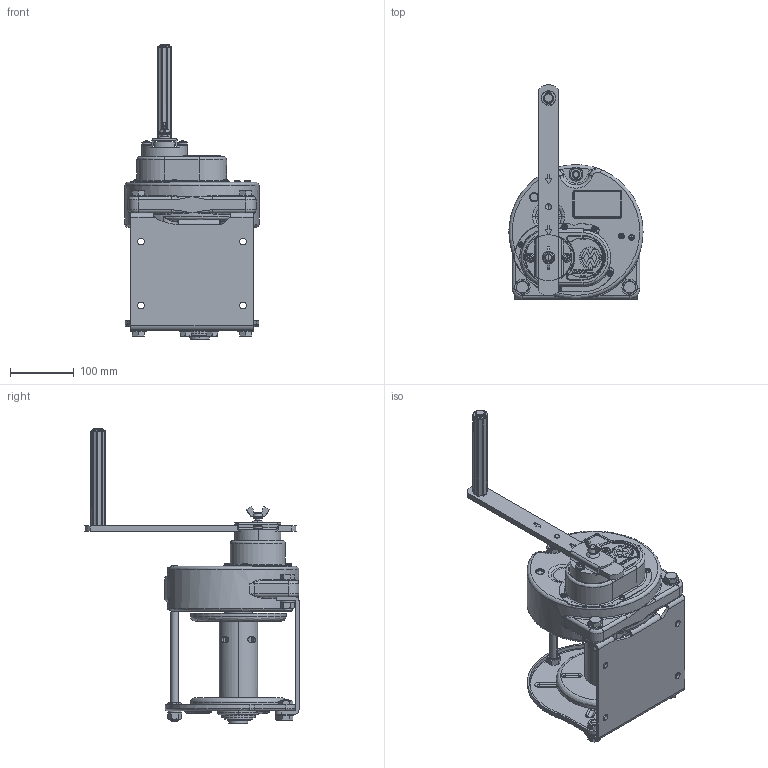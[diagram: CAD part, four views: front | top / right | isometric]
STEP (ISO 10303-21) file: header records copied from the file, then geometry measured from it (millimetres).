
FILE_DESCRIPTION( (''), '2;1');
FILE_NAME ('GM-3-LUSI.stp','2023-12-22T13:50:42',(''),(''),'spGate 19.8.2 (****-****-****-****)','','');
FILE_SCHEMA (('AUTOMOTIVE_DESIGN'));
Length unit declared in the file: millimetre
Products named in the file (3): Assembly; GM-3-LUSI-prt0; GM-3-LUSI-prt1
Assembly tree (2 placements, depth 2):
  Assembly
    GM-3-LUSI-prt0
    GM-3-LUSI-prt1
Bounding box: 209.96 x 335.43 x 463.5 mm (x, y, z)
Volume: 3679258.3 mm3; surface area: 577561.9 mm2
Topology: 2 solids, 2 shells, 2407 faces, 6233 edges, 3892 vertices
Faces by surface type: plane 1148, cylinder 730, bspline 459, sphere 70
Entity records: 131974 total; most frequent: CARTESIAN_POINT 25559, ORIENTED_EDGE 12336, DIRECTION 11689, COLOUR_RGB 8577, PRESENTATION_STYLE_ASSIGNMENT 8577, STYLED_ITEM 8577, EDGE_CURVE 6168, DRAUGHTING_PRE_DEFINED_CURVE_FONT 6168
